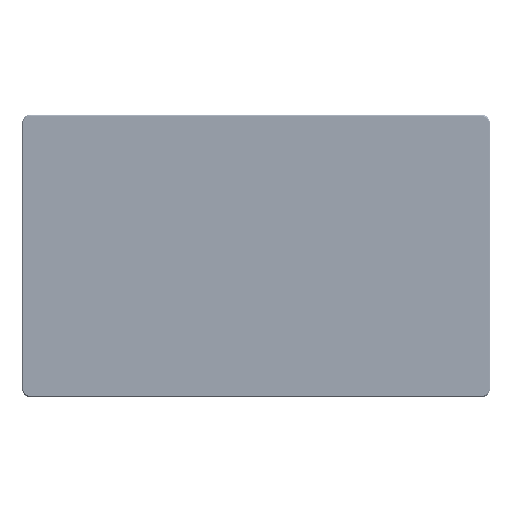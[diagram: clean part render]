
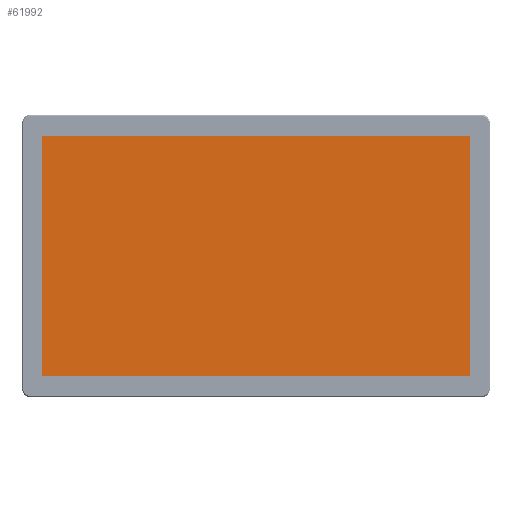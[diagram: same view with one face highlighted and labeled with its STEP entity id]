
A CAD part, top view. The second image highlights one B-rep face of the part: STEP entity #61992.
In plain terms, the highlighted planar face has unit normal (0, 0, 1).
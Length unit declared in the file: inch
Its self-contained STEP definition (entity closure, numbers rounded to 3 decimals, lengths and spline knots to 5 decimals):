
#11433 = VECTOR ( 'NONE', #62983, 39.37008 ) ;
#20511 = CARTESIAN_POINT ( 'NONE',  ( 11.50279, -6.56745, 0.19681 ) ) ;
#42683 = DIRECTION ( 'NONE',  ( 1., 0., 0. ) ) ;
#52345 = VERTEX_POINT ( 'NONE', #151070 ) ;
#61992 = ADVANCED_FACE ( 'NONE', ( #516495 ), #233221, .T. ) ;
#62983 = DIRECTION ( 'NONE',  ( -1., 0., 0. ) ) ;
#94234 = CARTESIAN_POINT ( 'NONE',  ( 11.50279, 6.6668, 0.19681 ) ) ;
#122707 = VECTOR ( 'NONE', #156691, 39.37008 ) ;
#123039 = CARTESIAN_POINT ( 'NONE',  ( 11.50279, 6.6668, 0.19681 ) ) ;
#124578 = EDGE_LOOP ( 'NONE', ( #171641, #428572, #451435, #335317 ) ) ;
#137028 = EDGE_CURVE ( 'NONE', #452519, #474323, #443235, .T. ) ;
#151070 = CARTESIAN_POINT ( 'NONE',  ( -12.02477, 6.6668, 0.19681 ) ) ;
#156691 = DIRECTION ( 'NONE',  ( 0., -1., 0. ) ) ;
#163406 = DIRECTION ( 'NONE',  ( 1., 0., 0. ) ) ;
#166871 = CARTESIAN_POINT ( 'NONE',  ( -0.26099, 0.04948, 0.19681 ) ) ;
#171641 = ORIENTED_EDGE ( 'NONE', *, *, #362234, .T. ) ;
#200527 = CARTESIAN_POINT ( 'NONE',  ( -12.02477, -6.56745, 0.19681 ) ) ;
#218969 = LINE ( 'NONE', #335542, #11433 ) ;
#233221 = PLANE ( 'NONE',  #455973 ) ;
#248452 = EDGE_CURVE ( 'NONE', #410397, #452519, #367268, .T. ) ;
#328516 = LINE ( 'NONE', #450353, #122707 ) ;
#335317 = ORIENTED_EDGE ( 'NONE', *, *, #360887, .T. ) ;
#335542 = CARTESIAN_POINT ( 'NONE',  ( -12.02477, 6.6668, 0.19681 ) ) ;
#360270 = VECTOR ( 'NONE', #163406, 39.37008 ) ;
#360887 = EDGE_CURVE ( 'NONE', #474323, #52345, #218969, .T. ) ;
#362234 = EDGE_CURVE ( 'NONE', #52345, #410397, #328516, .T. ) ;
#367268 = LINE ( 'NONE', #200527, #360270 ) ;
#410397 = VERTEX_POINT ( 'NONE', #468955 ) ;
#410430 = DIRECTION ( 'NONE',  ( 0., 0., 1. ) ) ;
#420197 = VECTOR ( 'NONE', #438027, 39.37008 ) ;
#428572 = ORIENTED_EDGE ( 'NONE', *, *, #248452, .T. ) ;
#438027 = DIRECTION ( 'NONE',  ( 0., 1., 0. ) ) ;
#443235 = LINE ( 'NONE', #123039, #420197 ) ;
#450353 = CARTESIAN_POINT ( 'NONE',  ( -12.02477, 6.6668, 0.19681 ) ) ;
#451435 = ORIENTED_EDGE ( 'NONE', *, *, #137028, .T. ) ;
#452519 = VERTEX_POINT ( 'NONE', #20511 ) ;
#455973 = AXIS2_PLACEMENT_3D ( 'NONE', #166871, #410430, #42683 ) ;
#468955 = CARTESIAN_POINT ( 'NONE',  ( -12.02477, -6.56745, 0.19681 ) ) ;
#474323 = VERTEX_POINT ( 'NONE', #94234 ) ;
#516495 = FACE_OUTER_BOUND ( 'NONE', #124578, .T. ) ;
